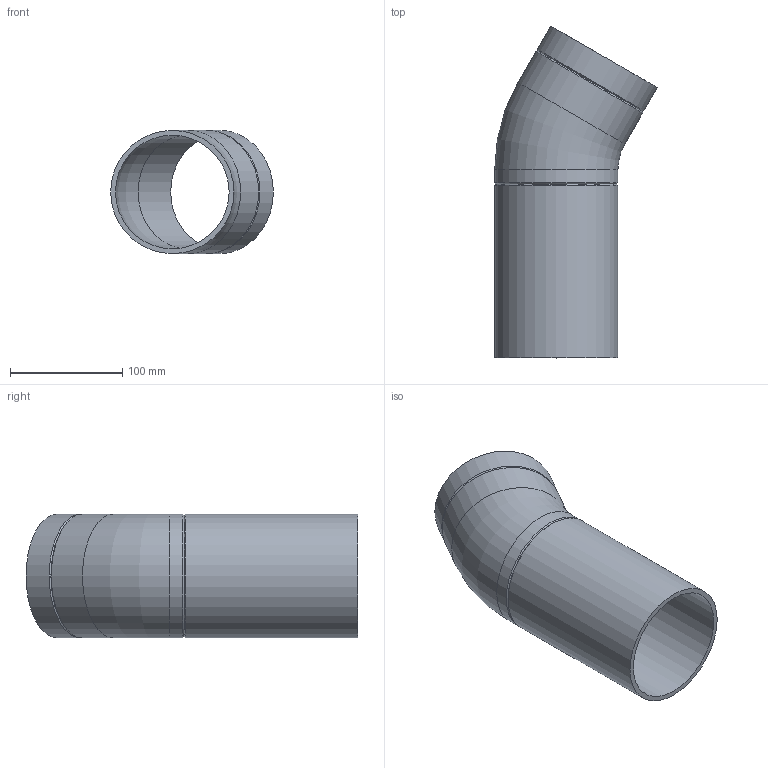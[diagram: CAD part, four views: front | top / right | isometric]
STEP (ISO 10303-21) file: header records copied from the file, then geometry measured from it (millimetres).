
FILE_DESCRIPTION(/* description */ (''),/* implementation_level */ '2;1');
FILE_NAME(/* name */ 'Z:\Geberit\Export\NewStep\PE Bogen Einzelteil_Ipart\stp\367030.stp',/* time_stamp */ '2014-04-02T11:55:44+02:00',/* author */ ('bruh'),/* organization */ (''),/* preprocessor_version */ 'ST-DEVELOPER v15.2',/* originating_system */ 'Autodesk Inventor 2014',/* authorisation */ '');
FILE_SCHEMA (('AUTOMOTIVE_DESIGN { 1 0 10303 214 3 1 1 }'));
Length unit declared in the file: millimetre
Products named in the file (1): 367030
Bounding box: 145.13 x 296.11 x 110 mm (x, y, z)
Volume: 397220.9 mm3; surface area: 188604.4 mm2
Topology: 1 solids, 1 shells, 14 faces, 28 edges, 16 vertices
Faces by surface type: cylinder 6, cone 4, torus 2, plane 2
Full cylindrical faces by diameter (mm): 101.4 x2, 110 x4
Entity records: 323 total; most frequent: DIRECTION 58, CARTESIAN_POINT 43, AXIS2_PLACEMENT_3D 29, EDGE_LOOP 28, ORIENTED_EDGE 28, FACE_BOUND 16, STYLED_ITEM 15, CIRCLE 14
